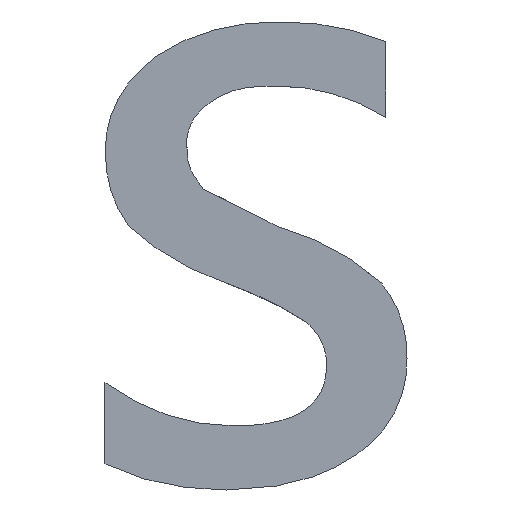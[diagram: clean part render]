
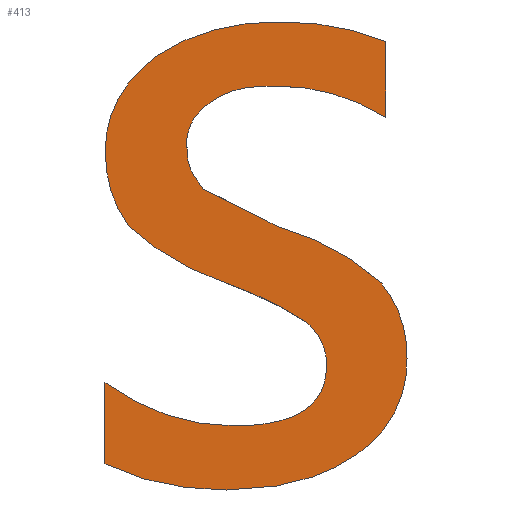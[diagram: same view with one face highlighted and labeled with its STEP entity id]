
A CAD part, front view. The second image highlights one B-rep face of the part: STEP entity #413.
In plain terms, the highlighted planar face has unit normal (0, -1, 0).
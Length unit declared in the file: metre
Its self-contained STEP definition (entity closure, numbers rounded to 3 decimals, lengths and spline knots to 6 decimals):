
#33=LINE('',#814,#46);
#34=LINE('',#829,#47);
#35=LINE('',#839,#48);
#46=VECTOR('',#682,1.);
#47=VECTOR('',#691,1.);
#48=VECTOR('',#700,1.);
#58=B_SPLINE_CURVE_WITH_KNOTS('',3,(#818,#819,#820,#821),.UNSPECIFIED.,
 .F.,.F.,(4,4),(18.,19.),.UNSPECIFIED.);
#59=B_SPLINE_CURVE_WITH_KNOTS('',3,(#855,#856,#857,#858),.UNSPECIFIED.,
 .F.,.F.,(4,4),(1.,2.),.UNSPECIFIED.);
#95=ORIENTED_EDGE('',*,*,#221,.T.);
#96=ORIENTED_EDGE('',*,*,#222,.T.);
#97=ORIENTED_EDGE('',*,*,#223,.T.);
#98=ORIENTED_EDGE('',*,*,#224,.T.);
#99=ORIENTED_EDGE('',*,*,#225,.T.);
#100=ORIENTED_EDGE('',*,*,#226,.T.);
#101=ORIENTED_EDGE('',*,*,#227,.T.);
#102=ORIENTED_EDGE('',*,*,#228,.T.);
#103=ORIENTED_EDGE('',*,*,#229,.T.);
#104=ORIENTED_EDGE('',*,*,#230,.T.);
#105=ORIENTED_EDGE('',*,*,#231,.T.);
#106=ORIENTED_EDGE('',*,*,#232,.T.);
#107=ORIENTED_EDGE('',*,*,#233,.T.);
#108=ORIENTED_EDGE('',*,*,#234,.T.);
#109=ORIENTED_EDGE('',*,*,#235,.T.);
#110=ORIENTED_EDGE('',*,*,#236,.T.);
#111=ORIENTED_EDGE('',*,*,#237,.T.);
#112=ORIENTED_EDGE('',*,*,#238,.T.);
#113=ORIENTED_EDGE('',*,*,#239,.T.);
#114=ORIENTED_EDGE('',*,*,#240,.T.);
#115=ORIENTED_EDGE('',*,*,#241,.T.);
#221=EDGE_CURVE('',#284,#285,#321,.T.);
#222=EDGE_CURVE('',#285,#286,#33,.T.);
#223=EDGE_CURVE('',#286,#287,#322,.T.);
#224=EDGE_CURVE('',#287,#288,#58,.T.);
#225=EDGE_CURVE('',#288,#289,#323,.T.);
#226=EDGE_CURVE('',#289,#290,#324,.T.);
#227=EDGE_CURVE('',#290,#291,#325,.T.);
#228=EDGE_CURVE('',#291,#292,#34,.F.);
#229=EDGE_CURVE('',#292,#293,#326,.T.);
#230=EDGE_CURVE('',#293,#294,#327,.T.);
#231=EDGE_CURVE('',#294,#295,#328,.T.);
#232=EDGE_CURVE('',#295,#296,#329,.T.);
#233=EDGE_CURVE('',#296,#297,#35,.T.);
#234=EDGE_CURVE('',#297,#298,#330,.T.);
#235=EDGE_CURVE('',#298,#299,#331,.T.);
#236=EDGE_CURVE('',#299,#300,#332,.T.);
#237=EDGE_CURVE('',#300,#301,#333,.T.);
#238=EDGE_CURVE('',#301,#302,#334,.T.);
#239=EDGE_CURVE('',#302,#303,#335,.T.);
#240=EDGE_CURVE('',#303,#304,#336,.T.);
#241=EDGE_CURVE('',#304,#284,#59,.T.);
#284=VERTEX_POINT('',#812);
#285=VERTEX_POINT('',#813);
#286=VERTEX_POINT('',#815);
#287=VERTEX_POINT('',#817);
#288=VERTEX_POINT('',#822);
#289=VERTEX_POINT('',#824);
#290=VERTEX_POINT('',#826);
#291=VERTEX_POINT('',#828);
#292=VERTEX_POINT('',#830);
#293=VERTEX_POINT('',#832);
#294=VERTEX_POINT('',#834);
#295=VERTEX_POINT('',#836);
#296=VERTEX_POINT('',#838);
#297=VERTEX_POINT('',#840);
#298=VERTEX_POINT('',#842);
#299=VERTEX_POINT('',#844);
#300=VERTEX_POINT('',#846);
#301=VERTEX_POINT('',#848);
#302=VERTEX_POINT('',#850);
#303=VERTEX_POINT('',#852);
#304=VERTEX_POINT('',#854);
#321=CIRCLE('',#604,0.000065);
#322=CIRCLE('',#605,0.000077);
#323=CIRCLE('',#606,0.000034);
#324=CIRCLE('',#607,0.000035);
#325=CIRCLE('',#608,0.000085);
#326=CIRCLE('',#609,0.000015);
#327=CIRCLE('',#610,0.000015);
#328=CIRCLE('',#611,0.000028);
#329=CIRCLE('',#612,0.000066);
#330=CIRCLE('',#613,0.000081);
#331=CIRCLE('',#614,0.000071);
#332=CIRCLE('',#615,0.000035);
#333=CIRCLE('',#616,0.000038);
#334=CIRCLE('',#617,0.000077);
#335=CIRCLE('',#618,0.000129);
#336=CIRCLE('',#619,0.000016);
#338=EDGE_LOOP('',(#95,#96,#97,#98,#99,#100,#101,#102,#103,#104,#105,#106,
#107,#108,#109,#110,#111,#112,#113,#114,#115));
#361=FACE_BOUND('',#338,.T.);
#384=PLANE('',#603);
#413=ADVANCED_FACE('',(#361),#384,.F.);
#603=AXIS2_PLACEMENT_3D('',#810,#678,#679);
#604=AXIS2_PLACEMENT_3D('',#811,#680,#681);
#605=AXIS2_PLACEMENT_3D('',#816,#683,#684);
#606=AXIS2_PLACEMENT_3D('',#823,#685,#686);
#607=AXIS2_PLACEMENT_3D('',#825,#687,#688);
#608=AXIS2_PLACEMENT_3D('',#827,#689,#690);
#609=AXIS2_PLACEMENT_3D('',#831,#692,#693);
#610=AXIS2_PLACEMENT_3D('',#833,#694,#695);
#611=AXIS2_PLACEMENT_3D('',#835,#696,#697);
#612=AXIS2_PLACEMENT_3D('',#837,#698,#699);
#613=AXIS2_PLACEMENT_3D('',#841,#701,#702);
#614=AXIS2_PLACEMENT_3D('',#843,#703,#704);
#615=AXIS2_PLACEMENT_3D('',#845,#705,#706);
#616=AXIS2_PLACEMENT_3D('',#847,#707,#708);
#617=AXIS2_PLACEMENT_3D('',#849,#709,#710);
#618=AXIS2_PLACEMENT_3D('',#851,#711,#712);
#619=AXIS2_PLACEMENT_3D('',#853,#713,#714);
#678=DIRECTION('',(0.,1.,0.));
#679=DIRECTION('',(0.,0.,-1.));
#680=DIRECTION('',(0.,1.,0.));
#681=DIRECTION('',(0.,0.,1.));
#682=DIRECTION('',(0.,0.,-1.));
#683=DIRECTION('',(0.,-1.,0.));
#684=DIRECTION('',(0.,0.,-1.));
#685=DIRECTION('',(0.,-1.,0.));
#686=DIRECTION('',(0.,0.,-1.));
#687=DIRECTION('',(0.,-1.,0.));
#688=DIRECTION('',(0.,0.,-1.));
#689=DIRECTION('',(0.,-1.,0.));
#690=DIRECTION('',(0.,0.,-1.));
#691=DIRECTION('',(0.893,0.,-0.451));
#692=DIRECTION('',(0.,1.,0.));
#693=DIRECTION('',(0.,0.,1.));
#694=DIRECTION('',(0.,1.,0.));
#695=DIRECTION('',(0.,0.,1.));
#696=DIRECTION('',(0.,1.,0.));
#697=DIRECTION('',(0.,0.,1.));
#698=DIRECTION('',(0.,1.,0.));
#699=DIRECTION('',(0.,0.,1.));
#700=DIRECTION('',(0.,0.,1.));
#701=DIRECTION('',(0.,-1.,0.));
#702=DIRECTION('',(0.,0.,-1.));
#703=DIRECTION('',(0.,-1.,0.));
#704=DIRECTION('',(0.,0.,-1.));
#705=DIRECTION('',(0.,-1.,0.));
#706=DIRECTION('',(0.,0.,-1.));
#707=DIRECTION('',(0.,-1.,0.));
#708=DIRECTION('',(0.,0.,-1.));
#709=DIRECTION('',(0.,-1.,0.));
#710=DIRECTION('',(0.,0.,-1.));
#711=DIRECTION('',(0.,1.,0.));
#712=DIRECTION('',(0.,0.,1.));
#713=DIRECTION('',(0.,1.,0.));
#714=DIRECTION('',(0.,0.,1.));
#810=CARTESIAN_POINT('',(-0.144967,-0.023259,0.01216));
#811=CARTESIAN_POINT('',(-0.144947,-0.023259,0.012221));
#812=CARTESIAN_POINT('',(-0.144946,-0.023259,0.012156));
#813=CARTESIAN_POINT('',(-0.144987,-0.023259,0.01217));
#814=CARTESIAN_POINT('',(-0.144987,-0.023259,0.012145));
#815=CARTESIAN_POINT('',(-0.144987,-0.023259,0.012145));
#816=CARTESIAN_POINT('',(-0.144953,-0.023259,0.012213));
#817=CARTESIAN_POINT('',(-0.144949,-0.023259,0.012137));
#818=CARTESIAN_POINT('',(-0.144949,-0.023259,0.012137));
#819=CARTESIAN_POINT('',(-0.144932,-0.023259,0.012137));
#820=CARTESIAN_POINT('',(-0.144919,-0.023259,0.01214));
#821=CARTESIAN_POINT('',(-0.144908,-0.023259,0.012148));
#822=CARTESIAN_POINT('',(-0.144908,-0.023259,0.012148));
#823=CARTESIAN_POINT('',(-0.144927,-0.023259,0.012176));
#824=CARTESIAN_POINT('',(-0.144893,-0.023259,0.012177));
#825=CARTESIAN_POINT('',(-0.144928,-0.023259,0.012179));
#826=CARTESIAN_POINT('',(-0.144901,-0.023259,0.012201));
#827=CARTESIAN_POINT('',(-0.144957,-0.023259,0.012137));
#828=CARTESIAN_POINT('',(-0.144932,-0.023259,0.012218));
#829=CARTESIAN_POINT('',(-0.144947,-0.023259,0.012225));
#830=CARTESIAN_POINT('',(-0.144956,-0.023259,0.01223));
#831=CARTESIAN_POINT('',(-0.144946,-0.023259,0.012242));
#832=CARTESIAN_POINT('',(-0.144961,-0.023259,0.012244));
#833=CARTESIAN_POINT('',(-0.144946,-0.023259,0.012244));
#834=CARTESIAN_POINT('',(-0.144954,-0.023259,0.012257));
#835=CARTESIAN_POINT('',(-0.144938,-0.023259,0.012234));
#836=CARTESIAN_POINT('',(-0.144934,-0.023259,0.012262));
#837=CARTESIAN_POINT('',(-0.144934,-0.023259,0.012197));
#838=CARTESIAN_POINT('',(-0.144899,-0.023259,0.012253));
#839=CARTESIAN_POINT('',(-0.144899,-0.023259,0.012276));
#840=CARTESIAN_POINT('',(-0.144899,-0.023259,0.012276));
#841=CARTESIAN_POINT('',(-0.14493,-0.023259,0.012201));
#842=CARTESIAN_POINT('',(-0.144932,-0.023259,0.012282));
#843=CARTESIAN_POINT('',(-0.144934,-0.023259,0.012211));
#844=CARTESIAN_POINT('',(-0.144971,-0.023259,0.012271));
#845=CARTESIAN_POINT('',(-0.144951,-0.023259,0.012242));
#846=CARTESIAN_POINT('',(-0.144986,-0.023259,0.012241));
#847=CARTESIAN_POINT('',(-0.144949,-0.023259,0.012241));
#848=CARTESIAN_POINT('',(-0.144979,-0.023259,0.012219));
#849=CARTESIAN_POINT('',(-0.144926,-0.023259,0.012275));
#850=CARTESIAN_POINT('',(-0.144949,-0.023259,0.012201));
#851=CARTESIAN_POINT('',(-0.144992,-0.023259,0.012079));
#852=CARTESIAN_POINT('',(-0.144924,-0.023259,0.012189));
#853=CARTESIAN_POINT('',(-0.144934,-0.023259,0.012176));
#854=CARTESIAN_POINT('',(-0.144918,-0.023259,0.012175));
#855=CARTESIAN_POINT('',(-0.144918,-0.023259,0.012175));
#856=CARTESIAN_POINT('',(-0.144918,-0.023259,0.012163));
#857=CARTESIAN_POINT('',(-0.144927,-0.023259,0.012156));
#858=CARTESIAN_POINT('',(-0.144946,-0.023259,0.012156));
